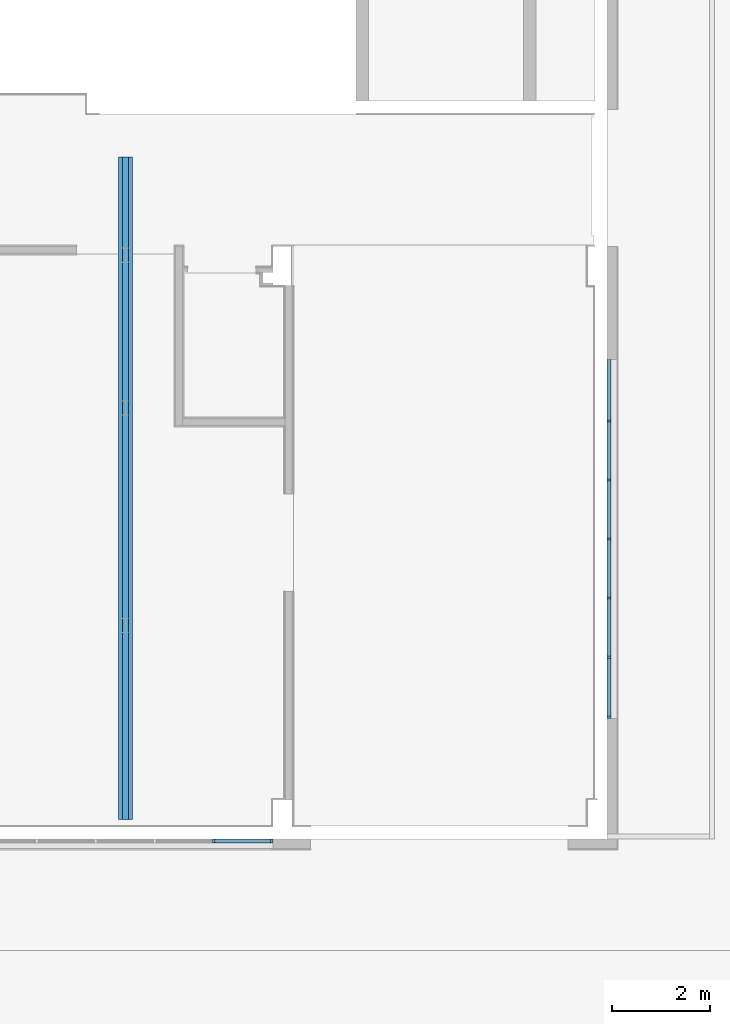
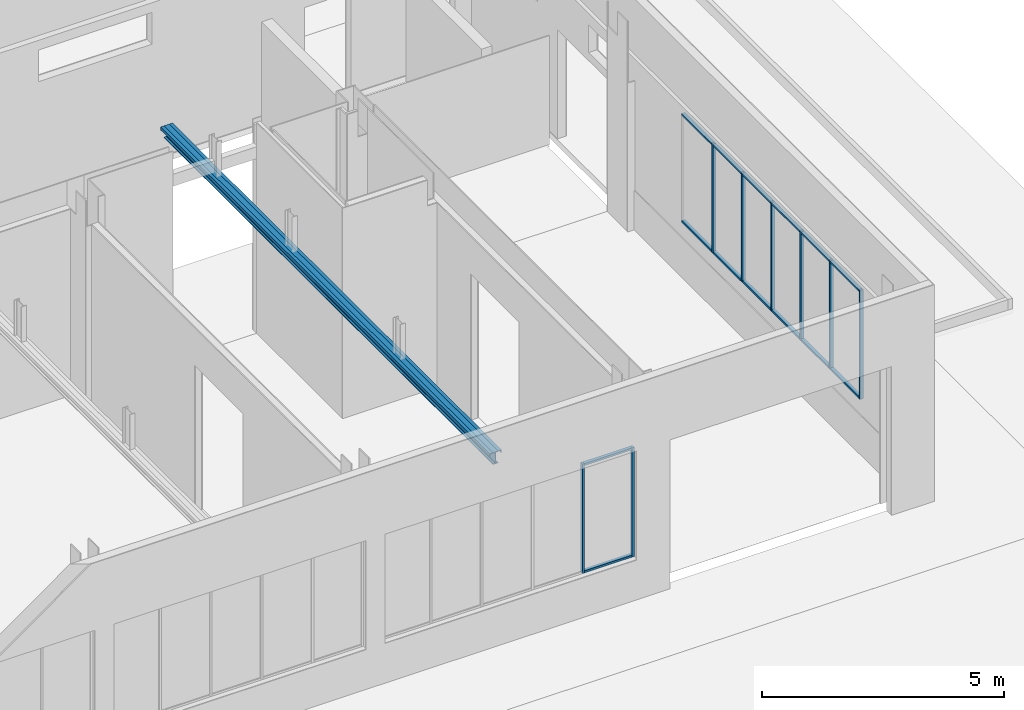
# One storey, part 5 of 27: 22 members, 3 beams, 2 elements without a shape of their own.
"""IFC2X3 building model written with IfcOpenShell, lengths in centimetres."""

from ifc_helpers import new_model, entity, si_unit, converted_unit, derived_unit, direction, frame, frame_2d, origin, origin_2d_with_axis, place, context, subcontext, project, spatial, polyline, circle_curve, parameter, trimmed, segment, composite_curve, rectangle, outline, extrude, source, transform, mapped, material, type_object, type_shapes, element, aggregate, save


model = new_model("IFC2X3")

# Units and contexts
model_context = context("Model", 3, precision=0.001, world=origin(), true_north=direction((6.12303176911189e-17, 1.0)))
body_context = subcontext(model_context, "Body", "Model", "MODEL_VIEW")
ifc_project = project(units=[si_unit("LENGTHUNIT", "METRE", prefix="CENTI"), si_unit("AREAUNIT", "SQUARE_METRE"), si_unit("VOLUMEUNIT", "CUBIC_METRE"), converted_unit("PLANEANGLEUNIT", "DEGREE", entity("IfcRatioMeasure", 0.0174532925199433), si_unit("PLANEANGLEUNIT", "RADIAN"), dimensions=[0, 0, 0, 0, 0, 0, 0]), si_unit("MASSUNIT", "GRAM", prefix="KILO"), derived_unit("MASSDENSITYUNIT", [(si_unit("MASSUNIT", "GRAM", prefix="KILO"), 1), (si_unit("LENGTHUNIT", "METRE"), -3)]), derived_unit("MOMENTOFINERTIAUNIT", [(si_unit("LENGTHUNIT", "METRE"), 4)]), si_unit("TIMEUNIT", "SECOND"), si_unit("FREQUENCYUNIT", "HERTZ"), si_unit("THERMODYNAMICTEMPERATUREUNIT", "DEGREE_CELSIUS"), derived_unit("THERMALTRANSMITTANCEUNIT", [(si_unit("MASSUNIT", "GRAM", prefix="KILO"), 1), (si_unit("THERMODYNAMICTEMPERATUREUNIT", "KELVIN"), -1), (si_unit("TIMEUNIT", "SECOND"), -3)]), derived_unit("VOLUMETRICFLOWRATEUNIT", [(si_unit("LENGTHUNIT", "METRE"), 3), (si_unit("TIMEUNIT", "SECOND"), -1)]), si_unit("ELECTRICCURRENTUNIT", "AMPERE"), si_unit("ELECTRICVOLTAGEUNIT", "VOLT"), si_unit("POWERUNIT", "WATT"), si_unit("FORCEUNIT", "NEWTON", prefix="KILO"), si_unit("ILLUMINANCEUNIT", "LUX"), si_unit("LUMINOUSFLUXUNIT", "LUMEN"), si_unit("LUMINOUSINTENSITYUNIT", "CANDELA"), derived_unit("USERDEFINED", [(si_unit("MASSUNIT", "GRAM", prefix="KILO"), -1), (si_unit("LENGTHUNIT", "METRE"), -2), (si_unit("TIMEUNIT", "SECOND"), 3), (si_unit("LUMINOUSFLUXUNIT", "LUMEN"), 1)]), derived_unit("LINEARVELOCITYUNIT", [(si_unit("LENGTHUNIT", "METRE"), 1), (si_unit("TIMEUNIT", "SECOND"), -1)]), si_unit("PRESSUREUNIT", "PASCAL"), derived_unit("USERDEFINED", [(si_unit("LENGTHUNIT", "METRE"), -2), (si_unit("MASSUNIT", "GRAM", prefix="KILO"), 1), (si_unit("TIMEUNIT", "SECOND"), -2)]), derived_unit("LINEARFORCEUNIT", [(si_unit("MASSUNIT", "GRAM", prefix="KILO"), 1), (si_unit("LENGTHUNIT", "METRE"), 1), (si_unit("TIMEUNIT", "SECOND"), -2), (si_unit("LENGTHUNIT", "METRE"), -1)]), derived_unit("PLANARFORCEUNIT", [(si_unit("MASSUNIT", "GRAM", prefix="KILO"), 1), (si_unit("LENGTHUNIT", "METRE"), 1), (si_unit("TIMEUNIT", "SECOND"), -2), (si_unit("LENGTHUNIT", "METRE"), -2)])], contexts=[model_context])

# Site, building, storey
site_placement = place(None, origin())
site = spatial("IfcSite", under=ifc_project, at=site_placement, Name="Default", CompositionType="ELEMENT")
building_placement = place(site_placement, origin())
building = spatial("IfcBuilding", under=site, at=building_placement, CompositionType="ELEMENT")
storey_placement = place(building_placement, origin())
storey = spatial("IfcBuildingStorey", under=building, at=storey_placement, Name="Poziom 0 A +/-0,00", CompositionType="ELEMENT", Elevation=3.38570427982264e-11)

# Curtain wall, members
curtain_wall_type = type_object("IfcCurtainWallType", PredefinedType="NOTDEFINED")
curtain_wall_1_placement = place(storey_placement, origin())
curtain_wall_1 = element("IfcCurtainWall", 1, at=curtain_wall_1_placement, inside=storey, type_object=curtain_wall_type)
ifc_material_1 = material(Name="Aluminium")
member_type_1 = type_object("IfcMemberType", Name="Prostokątny szpros:50 x 80mm", PredefinedType="MULLION", material=ifc_material_1)
shared_shape_1 = source(origin(), body_context, "Body", "SweptSolid", [
    extrude(rectangle(XDim=8.0, YDim=5.0, at=origin_2d_with_axis()), frame((-2.5, 0.0, -113.500173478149), z_axis=(0.0, 0.0, 1.0), x_axis=(0.0, -1.0, 0.0)), (0.0, 0.0, 1.0), 113.500173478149),
])
type_shapes(member_type_1, [shared_shape_1])
member_1_placement = place(curtain_wall_1_placement, frame((285.735007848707, 251.127499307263, 375.0), z_axis=(1.0, 0.0, 0.0), x_axis=(0.0, 0.0, 1.0)))
member_1 = element("IfcMember", 2, at=member_1_placement, type_object=member_type_1, Name="Prostokątny szpros:50 x 80mm", ObjectType="Prostokątny szpros:50 x 80mm", context=body_context, shape_type="MappedRepresentation", body=[
    mapped(shared_shape_1, transform((0.0, 0.0, 0.0), scale=1.0)),
])
member_type_2 = type_object("IfcMemberType", Name="Prostokątny szpros:50 x 80mm", PredefinedType="MULLION", material=ifc_material_1)
shared_shape_2 = source(origin(), body_context, "Body", "SweptSolid", [
    extrude(rectangle(XDim=8.0, YDim=5.0, at=origin_2d_with_axis()), frame((-2.5, 0.0, -113.500173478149), z_axis=(0.0, 0.0, 1.0), x_axis=(0.0, -1.0, 0.0)), (0.0, 0.0, 1.0), 113.500173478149),
])
type_shapes(member_type_2, [shared_shape_2])
member_2_placement = place(curtain_wall_1_placement, frame((172.237321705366, 251.127499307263, 100.0), z_axis=(-1.0, 0.0, 0.0), x_axis=(0.0, 0.0, -1.0)))
member_2 = element("IfcMember", 3, at=member_2_placement, type_object=member_type_2, Name="Prostokątny szpros:50 x 80mm", ObjectType="Prostokątny szpros:50 x 80mm", context=body_context, shape_type="MappedRepresentation", body=[
    mapped(shared_shape_2, transform((0.0, 0.0, 0.0), scale=1.0)),
])
member_type_3 = type_object("IfcMemberType", Name="Prostokątny szpros:50 x 80mm", PredefinedType="MULLION", material=ifc_material_1)
shared_shape_3 = source(origin(), body_context, "Body", "SweptSolid", [
    extrude(rectangle(XDim=8.0, YDim=5.0, at=origin_2d_with_axis()), frame((-2.5, 0.0, -275.0), z_axis=(0.0, 0.0, 1.0), x_axis=(0.0, -1.0, 0.0)), (0.0, 0.0, 1.0), 274.999999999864),
])
type_shapes(member_type_3, [shared_shape_3])
member_3_placement = place(curtain_wall_1_placement, frame((290.735007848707, 251.127499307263, 100.0), z_axis=(0.0, 0.0, -1.0), x_axis=(1.0, 0.0, 0.0)))
member_3 = element("IfcMember", 4, at=member_3_placement, type_object=member_type_3, Name="Prostokątny szpros:50 x 80mm", ObjectType="Prostokątny szpros:50 x 80mm", context=body_context, shape_type="MappedRepresentation", body=[
    mapped(shared_shape_3, transform((0.0, 0.0, 0.0), scale=1.0)),
])

curtain_wall_2_placement = place(storey_placement, origin())
curtain_wall_2 = element("IfcCurtainWall", 5, at=curtain_wall_2_placement, inside=storey, type_object=curtain_wall_type)
member_type_4 = type_object("IfcMemberType", Name="Prostokątny szpros:50 x 80mm", PredefinedType="MULLION", material=ifc_material_1)
shared_shape_4 = source(origin(), body_context, "Body", "SweptSolid", [
    extrude(rectangle(XDim=8.0, YDim=5.0, at=origin_2d_with_axis()), frame((-2.5, 0.0, -275.0), z_axis=(0.0, 0.0, 1.0), x_axis=(0.0, -1.0, 0.0)), (0.0, 0.0, 1.0), 274.999999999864),
])
type_shapes(member_type_4, [shared_shape_4])
member_4_placement = place(curtain_wall_2_placement, frame((979.734898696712, 502.126457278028, 375.0), z_axis=(0.0, 0.0, 1.0), x_axis=(0.0, -1.0, 0.0)))
member_4 = element("IfcMember", 6, at=member_4_placement, type_object=member_type_4, Name="Prostokątny szpros:50 x 80mm", ObjectType="Prostokątny szpros:50 x 80mm", context=body_context, shape_type="MappedRepresentation", body=[
    mapped(shared_shape_4, transform((0.0, 0.0, 0.0), scale=1.0)),
])
member_type_5 = type_object("IfcMemberType", Name="Prostokątny szpros:50 x 80mm", PredefinedType="MULLION", material=ifc_material_1)
shared_shape_5 = source(origin(), body_context, "Body", "SweptSolid", [
    extrude(rectangle(XDim=8.0, YDim=5.0, at=origin_2d_with_axis()), frame((-2.5, 0.0, -116.002333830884), z_axis=(0.0, 0.0, 1.0), x_axis=(0.0, -1.0, 0.0)), (0.0, 0.0, 1.0), 116.002333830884),
])
type_shapes(member_type_5, [shared_shape_5])
member_5_placement = place(curtain_wall_2_placement, frame((979.734898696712, 630.626457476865, 100.0), z_axis=(0.0, -1.0, 0.0), x_axis=(0.0, 0.0, -1.0)))
member_5 = element("IfcMember", 7, at=member_5_placement, type_object=member_type_5, Name="Prostokątny szpros:50 x 80mm", ObjectType="Prostokątny szpros:50 x 80mm", context=body_context, shape_type="MappedRepresentation", body=[
    mapped(shared_shape_5, transform((0.0, 0.0, 0.0), scale=1.0)),
])
member_6_placement = place(curtain_wall_2_placement, frame((979.734898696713, 751.627249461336, 100.0), z_axis=(0.0, -1.0, 0.0), x_axis=(0.0, 0.0, -1.0)))
member_6 = element("IfcMember", 8, at=member_6_placement, type_object=member_type_5, Name="Prostokątny szpros:50 x 80mm", ObjectType="Prostokątny szpros:50 x 80mm", context=body_context, shape_type="MappedRepresentation", body=[
    mapped(shared_shape_5, transform((0.0, 0.0, 0.0), scale=1.0)),
])
member_7_placement = place(curtain_wall_2_placement, frame((979.734898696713, 872.627249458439, 100.0), z_axis=(0.0, -1.0, 0.0), x_axis=(0.0, 0.0, -1.0)))
member_7 = element("IfcMember", 9, at=member_7_placement, type_object=member_type_5, Name="Prostokątny szpros:50 x 80mm", ObjectType="Prostokątny szpros:50 x 80mm", context=body_context, shape_type="MappedRepresentation", body=[
    mapped(shared_shape_5, transform((0.0, 0.0, 0.0), scale=1.0)),
])
member_8_placement = place(curtain_wall_2_placement, frame((979.734898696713, 993.627249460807, 100.0), z_axis=(0.0, -1.0, 0.0), x_axis=(0.0, 0.0, -1.0)))
member_8 = element("IfcMember", 10, at=member_8_placement, type_object=member_type_5, Name="Prostokątny szpros:50 x 80mm", ObjectType="Prostokątny szpros:50 x 80mm", context=body_context, shape_type="MappedRepresentation", body=[
    mapped(shared_shape_5, transform((0.0, 0.0, 0.0), scale=1.0)),
])

# Member
member_type_6 = type_object("IfcMemberType", Name="Prostokątny szpros:50 x 80mm", PredefinedType="MULLION", material=ifc_material_1)
shared_shape_6 = source(origin(), body_context, "Body", "SweptSolid", [
    extrude(rectangle(XDim=8.0, YDim=5.0, at=origin_2d_with_axis()), frame((0.0, 0.0, -275.0), z_axis=(0.0, 0.0, 1.0), x_axis=(0.0, -1.0, 0.0)), (0.0, 0.0, 1.0), 274.999999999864),
])
type_shapes(member_type_6, [shared_shape_6])
member_9_placement = place(curtain_wall_1_placement, frame((169.737321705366, 251.127499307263, 100.0), z_axis=(0.0, 0.0, -1.0), x_axis=(1.0, 0.0, 0.0)))
member_9 = element("IfcMember", 11, at=member_9_placement, type_object=member_type_6, Name="Prostokątny szpros:50 x 80mm", ObjectType="Prostokątny szpros:50 x 80mm", context=body_context, shape_type="MappedRepresentation", body=[
    mapped(shared_shape_6, transform((0.0, 0.0, 0.0), scale=1.0)),
])

aggregate(curtain_wall_1, [member_1, member_3, member_2, member_9])

member_10_placement = place(curtain_wall_2_placement, frame((979.734898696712, 628.126457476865, 100.0), z_axis=(0.0, 0.0, -1.0), x_axis=(0.0, 1.0, 0.0)))
member_10 = element("IfcMember", 12, at=member_10_placement, type_object=member_type_6, Name="Prostokątny szpros:50 x 80mm", ObjectType="Prostokątny szpros:50 x 80mm", context=body_context, shape_type="MappedRepresentation", body=[
    mapped(shared_shape_6, transform((0.0, 0.0, 0.0), scale=1.0)),
])

member_11_placement = place(curtain_wall_2_placement, frame((979.734898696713, 749.127249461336, 100.0), z_axis=(0.0, 0.0, -1.0), x_axis=(0.0, 1.0, 0.0)))
member_11 = element("IfcMember", 13, at=member_11_placement, type_object=member_type_6, Name="Prostokątny szpros:50 x 80mm", ObjectType="Prostokątny szpros:50 x 80mm", context=body_context, shape_type="MappedRepresentation", body=[
    mapped(shared_shape_6, transform((0.0, 0.0, 0.0), scale=1.0)),
])

member_12_placement = place(curtain_wall_2_placement, frame((979.734898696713, 870.127249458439, 100.0), z_axis=(0.0, 0.0, -1.0), x_axis=(0.0, 1.0, 0.0)))
member_12 = element("IfcMember", 14, at=member_12_placement, type_object=member_type_6, Name="Prostokątny szpros:50 x 80mm", ObjectType="Prostokątny szpros:50 x 80mm", context=body_context, shape_type="MappedRepresentation", body=[
    mapped(shared_shape_6, transform((0.0, 0.0, 0.0), scale=1.0)),
])

member_13_placement = place(curtain_wall_2_placement, frame((979.734898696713, 991.127249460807, 100.0), z_axis=(0.0, 0.0, -1.0), x_axis=(0.0, 1.0, 0.0)))
member_13 = element("IfcMember", 15, at=member_13_placement, type_object=member_type_6, Name="Prostokątny szpros:50 x 80mm", ObjectType="Prostokątny szpros:50 x 80mm", context=body_context, shape_type="MappedRepresentation", body=[
    mapped(shared_shape_6, transform((0.0, 0.0, 0.0), scale=1.0)),
])

member_14_placement = place(curtain_wall_2_placement, frame((979.734898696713, 1112.12724946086, 100.0), z_axis=(0.0, 0.0, -1.0), x_axis=(0.0, 1.0, 0.0)))
member_14 = element("IfcMember", 16, at=member_14_placement, type_object=member_type_6, Name="Prostokątny szpros:50 x 80mm", ObjectType="Prostokątny szpros:50 x 80mm", context=body_context, shape_type="MappedRepresentation", body=[
    mapped(shared_shape_6, transform((0.0, 0.0, 0.0), scale=1.0)),
])

member_type_7 = type_object("IfcMemberType", Name="Prostokątny szpros:50 x 80mm", PredefinedType="MULLION", material=ifc_material_1)
shared_shape_7 = source(origin(), body_context, "Body", "SweptSolid", [
    extrude(rectangle(XDim=8.0, YDim=5.0, at=origin_2d_with_axis()), frame((-2.5, 0.0, -116.002333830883), z_axis=(0.0, 0.0, 1.0), x_axis=(0.0, -1.0, 0.0)), (0.0, 0.0, 1.0), 116.002333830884),
])
type_shapes(member_type_7, [shared_shape_7])
member_15_placement = place(curtain_wall_2_placement, frame((979.734898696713, 746.627249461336, 375.0), z_axis=(0.0, 1.0, 0.0), x_axis=(0.0, 0.0, 1.0)))
member_15 = element("IfcMember", 17, at=member_15_placement, type_object=member_type_7, Name="Prostokątny szpros:50 x 80mm", ObjectType="Prostokątny szpros:50 x 80mm", context=body_context, shape_type="MappedRepresentation", body=[
    mapped(shared_shape_7, transform((0.0, 0.0, 0.0), scale=1.0)),
])

member_16_placement = place(curtain_wall_2_placement, frame((979.734898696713, 867.627249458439, 375.0), z_axis=(0.0, 1.0, 0.0), x_axis=(0.0, 0.0, 1.0)))
member_16 = element("IfcMember", 18, at=member_16_placement, type_object=member_type_7, Name="Prostokątny szpros:50 x 80mm", ObjectType="Prostokątny szpros:50 x 80mm", context=body_context, shape_type="MappedRepresentation", body=[
    mapped(shared_shape_7, transform((0.0, 0.0, 0.0), scale=1.0)),
])

member_17_placement = place(curtain_wall_2_placement, frame((979.734898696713, 988.627249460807, 375.0), z_axis=(0.0, 1.0, 0.0), x_axis=(0.0, 0.0, 1.0)))
member_17 = element("IfcMember", 19, at=member_17_placement, type_object=member_type_7, Name="Prostokątny szpros:50 x 80mm", ObjectType="Prostokątny szpros:50 x 80mm", context=body_context, shape_type="MappedRepresentation", body=[
    mapped(shared_shape_7, transform((0.0, 0.0, 0.0), scale=1.0)),
])

member_18_placement = place(curtain_wall_2_placement, frame((979.734898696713, 1109.62724946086, 375.0), z_axis=(0.0, 1.0, 0.0), x_axis=(0.0, 0.0, 1.0)))
member_18 = element("IfcMember", 20, at=member_18_placement, type_object=member_type_7, Name="Prostokątny szpros:50 x 80mm", ObjectType="Prostokątny szpros:50 x 80mm", context=body_context, shape_type="MappedRepresentation", body=[
    mapped(shared_shape_7, transform((0.0, 0.0, 0.0), scale=1.0)),
])

member_type_8 = type_object("IfcMemberType", Name="Prostokątny szpros:50 x 80mm", PredefinedType="MULLION", material=ifc_material_1)
shared_shape_8 = source(origin(), body_context, "Body", "SweptSolid", [
    extrude(rectangle(XDim=8.0, YDim=5.0, at=origin_2d_with_axis()), frame((-2.5, 0.0, -118.4999790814), z_axis=(0.0, 0.0, 1.0), x_axis=(0.0, -1.0, 0.0)), (0.0, 0.0, 1.0), 118.499979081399),
])
type_shapes(member_type_8, [shared_shape_8])
member_19_placement = place(curtain_wall_2_placement, frame((979.734898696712, 625.626457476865, 375.0), z_axis=(0.0, 1.0, 0.0), x_axis=(0.0, 0.0, 1.0)))
member_19 = element("IfcMember", 21, at=member_19_placement, type_object=member_type_8, Name="Prostokątny szpros:50 x 80mm", ObjectType="Prostokątny szpros:50 x 80mm", context=body_context, shape_type="MappedRepresentation", body=[
    mapped(shared_shape_8, transform((0.0, 0.0, 0.0), scale=1.0)),
])

member_type_9 = type_object("IfcMemberType", Name="Prostokątny szpros:50 x 80mm", PredefinedType="MULLION", material=ifc_material_1)
shared_shape_9 = source(origin(), body_context, "Body", "SweptSolid", [
    extrude(rectangle(XDim=8.0, YDim=5.0, at=origin_2d_with_axis()), frame((-2.5, 0.0, -118.4999790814), z_axis=(0.0, 0.0, 1.0), x_axis=(0.0, -1.0, 0.0)), (0.0, 0.0, 1.0), 118.499979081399),
])
type_shapes(member_type_9, [shared_shape_9])
member_20_placement = place(curtain_wall_2_placement, frame((979.734898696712, 507.126457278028, 100.0), z_axis=(0.0, -1.0, 0.0), x_axis=(0.0, 0.0, -1.0)))
member_20 = element("IfcMember", 22, at=member_20_placement, type_object=member_type_9, Name="Prostokątny szpros:50 x 80mm", ObjectType="Prostokątny szpros:50 x 80mm", context=body_context, shape_type="MappedRepresentation", body=[
    mapped(shared_shape_9, transform((0.0, 0.0, 0.0), scale=1.0)),
])

member_type_10 = type_object("IfcMemberType", Name="Prostokątny szpros:50 x 80mm", PredefinedType="MULLION", material=ifc_material_1)
shared_shape_10 = source(origin(), body_context, "Body", "SweptSolid", [
    extrude(rectangle(XDim=8.0, YDim=5.0, at=origin_2d_with_axis()), frame((-2.5, 0.0, -123.499213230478), z_axis=(0.0, 0.0, 1.0), x_axis=(0.0, -1.0, 0.0)), (0.0, 0.0, 1.0), 123.499213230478),
])
type_shapes(member_type_10, [shared_shape_10])
member_21_placement = place(curtain_wall_2_placement, frame((979.734898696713, 1238.12646269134, 375.0), z_axis=(0.0, 1.0, 0.0), x_axis=(0.0, 0.0, 1.0)))
member_21 = element("IfcMember", 23, at=member_21_placement, type_object=member_type_10, Name="Prostokątny szpros:50 x 80mm", ObjectType="Prostokątny szpros:50 x 80mm", context=body_context, shape_type="MappedRepresentation", body=[
    mapped(shared_shape_10, transform((0.0, 0.0, 0.0), scale=1.0)),
])

member_type_11 = type_object("IfcMemberType", Name="Prostokątny szpros:50 x 80mm", PredefinedType="MULLION", material=ifc_material_1)
shared_shape_11 = source(origin(), body_context, "Body", "SweptSolid", [
    extrude(rectangle(XDim=8.0, YDim=5.0, at=origin_2d_with_axis()), frame((-2.5, 0.0, -123.499213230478), z_axis=(0.0, 0.0, 1.0), x_axis=(0.0, -1.0, 0.0)), (0.0, 0.0, 1.0), 123.499213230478),
])
type_shapes(member_type_11, [shared_shape_11])
member_22_placement = place(curtain_wall_2_placement, frame((979.734898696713, 1114.62724946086, 100.0), z_axis=(0.0, -1.0, 0.0), x_axis=(0.0, 0.0, -1.0)))
member_22 = element("IfcMember", 24, at=member_22_placement, type_object=member_type_11, Name="Prostokątny szpros:50 x 80mm", ObjectType="Prostokątny szpros:50 x 80mm", context=body_context, shape_type="MappedRepresentation", body=[
    mapped(shared_shape_11, transform((0.0, 0.0, 0.0), scale=1.0)),
])

aggregate(curtain_wall_2, [member_21, member_20, member_4, member_19, member_5, member_10, member_15, member_6, member_11, member_16, member_7, member_12, member_17, member_8, member_13, member_18, member_22, member_14])

# Beams
ifc_material_2 = material(Name="Stal konstrukcyjna - S235")
beam_type_1 = type_object("IfcBeamType", Name="IN:IN300", PredefinedType="NOTDEFINED")
beam_1_placement = place(storey_placement, frame((-11.7650813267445, 295.12765760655, 440.0), z_axis=(0.0, 0.0, 1.0), x_axis=(0.0, 1.0, 0.0)))
element("IfcBeam", 25, at=beam_1_placement, inside=storey, type_object=beam_type_1, material=ifc_material_2, Name="IN:IN300", ObjectType="IN:IN300", context=body_context, shape_type="SweptSolid", body=[
    extrude(outline(composite_curve([segment(polyline([(14.3828568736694, -6.24999999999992), (15.0, -6.24999999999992)]), True, "CONTINUOUS"), segment(polyline([(15.0, -6.24999999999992), (15.0, 6.25)]), True, "CONTINUOUS"), segment(polyline([(15.0, 6.25), (14.3828568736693, 6.25)]), True, "CONTINUOUS"), segment(trimmed(circle_curve(frame_2d((14.3828568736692, 5.60000000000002), x_axis=(0.0, 1.0)), 0.649999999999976), [parameter(0.0)], [parameter(82.0300000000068)], True, "PARAMETER"), True, "CONTINUOUS"), segment(polyline([(13.7391353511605, 5.69012547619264), (13.1483239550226, 1.47025305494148)]), True, "CONTINUOUS"), segment(trimmed(circle_curve(frame_2d((12.0787558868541, 1.62000000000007), x_axis=(0.990340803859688, -0.138654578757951)), 1.08000000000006), [parameter(277.970000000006)], [parameter(0.0)], True, "PARAMETER"), False, "CONTINUOUS"), segment(polyline([(12.0787558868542, 0.540000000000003), (-12.078755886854, 0.539999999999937)]), True, "CONTINUOUS"), segment(trimmed(circle_curve(frame_2d((-12.078755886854, 1.61999999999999), x_axis=(0.0, -1.0)), 1.08000000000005), [parameter(277.970000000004)], [parameter(0.0)], True, "PARAMETER"), False, "CONTINUOUS"), segment(polyline([(-13.1483239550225, 1.4702530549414), (-13.7391353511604, 5.69012547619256)]), True, "CONTINUOUS"), segment(trimmed(circle_curve(frame_2d((-14.3828568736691, 5.59999999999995), x_axis=(0.9903408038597, 0.138654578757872)), 0.649999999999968), [parameter(0.0)], [parameter(82.0300000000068)], True, "PARAMETER"), True, "CONTINUOUS"), segment(polyline([(-14.3828568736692, 6.24999999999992), (-15.0, 6.24999999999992)]), True, "CONTINUOUS"), segment(polyline([(-15.0, 6.24999999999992), (-15.0, -6.25)]), True, "CONTINUOUS"), segment(polyline([(-15.0, -6.25), (-14.3828568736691, -6.25)]), True, "CONTINUOUS"), segment(trimmed(circle_curve(frame_2d((-14.3828568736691, -5.60000000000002), x_axis=(0.0, -1.0)), 0.649999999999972), [parameter(0.0)], [parameter(82.0300000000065)], True, "PARAMETER"), True, "CONTINUOUS"), segment(polyline([(-13.7391353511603, -5.69012547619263), (-13.1483239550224, -1.47025305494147)]), True, "CONTINUOUS"), segment(trimmed(circle_curve(frame_2d((-12.0787558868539, -1.62000000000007), x_axis=(-0.990340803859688, 0.138654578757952)), 1.08000000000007), [parameter(277.970000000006)], [parameter(0.0)], True, "PARAMETER"), False, "CONTINUOUS"), segment(polyline([(-12.078755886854, -0.540000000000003), (12.0787558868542, -0.539999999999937)]), True, "CONTINUOUS"), segment(trimmed(circle_curve(frame_2d((12.0787558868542, -1.61999999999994), x_axis=(0.0, 1.0)), 1.08000000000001), [parameter(277.969999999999)], [parameter(0.0)], True, "PARAMETER"), False, "CONTINUOUS"), segment(polyline([(13.1483239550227, -1.4702530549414), (13.7391353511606, -5.69012547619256)]), True, "CONTINUOUS"), segment(trimmed(circle_curve(frame_2d((14.3828568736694, -5.59999999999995), x_axis=(-0.9903408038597, -0.138654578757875)), 0.649999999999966), [parameter(0.0)], [parameter(82.0300000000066)], True, "PARAMETER"), True, "CONTINUOUS")], self_intersect=False)), frame((0.0, 0.0, -15.0), z_axis=(1.0, 0.0, 0.0), x_axis=(0.0, 0.0, -1.0)), (0.0, 0.0, 1.0), 1358.0),
])
beam_type_2 = type_object("IfcBeamType", Name="Równoramienne L:L80x8", PredefinedType="NOTDEFINED")
beam_2_placement = place(storey_placement, frame((-18.0150813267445, 278.62765760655, 437.74), z_axis=(0.0, 0.0, 1.0), x_axis=(0.0, 1.0, 0.0)))
element("IfcBeam", 26, at=beam_2_placement, inside=storey, type_object=beam_type_2, material=ifc_material_2, Name="Równoramienne L:L80x8", ObjectType="Równoramienne L:L80x8", context=body_context, shape_type="SweptSolid", body=[
    extrude(outline(composite_curve([segment(polyline([(-3.02222222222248, -4.97777777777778), (-2.72222222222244, -4.97777777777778)]), True, "CONTINUOUS"), segment(trimmed(circle_curve(frame_2d((-2.72222222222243, -4.47777777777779), x_axis=(0.0, -1.0)), 0.499999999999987), [parameter(0.0)], [parameter(90.0000000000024)], True, "PARAMETER"), True, "CONTINUOUS"), segment(polyline([(-2.22222222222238, -4.47777777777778), (-2.22222222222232, 1.22222222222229)]), True, "CONTINUOUS"), segment(trimmed(circle_curve(frame_2d((-1.22222222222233, 1.22222222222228), x_axis=(-1.0, 0.0)), 0.999999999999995), [parameter(270.0)], [parameter(0.0)], True, "PARAMETER"), False, "CONTINUOUS"), segment(polyline([(-1.22222222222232, 2.22222222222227), (4.47777777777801, 2.22222222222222)]), True, "CONTINUOUS"), segment(trimmed(circle_curve(frame_2d((4.47777777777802, 2.72222222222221), x_axis=(0.0, -1.0)), 0.499999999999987), [parameter(0.0)], [parameter(90.0000000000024)], True, "PARAMETER"), True, "CONTINUOUS"), segment(polyline([(4.97777777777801, 2.72222222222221), (4.97777777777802, 3.02222222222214)]), True, "CONTINUOUS"), segment(polyline([(4.97777777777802, 3.02222222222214), (-3.02222222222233, 3.02222222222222)]), True, "CONTINUOUS"), segment(polyline([(-3.02222222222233, 3.02222222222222), (-3.02222222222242, -4.97777777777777)]), True, "CONTINUOUS")], self_intersect=False)), frame((16.4997944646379, 4.9777777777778, -0.762222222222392), z_axis=(1.0, 0.0, 0.0), x_axis=(0.0, 0.0, -1.0)), (0.0, 0.0, 1.0), 1357.99999987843),
])
beam_3_placement = place(storey_placement, frame((0.224918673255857, 295.12765760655, 432.0), z_axis=(0.0, 0.0, 1.0), x_axis=(0.0, 1.0, 0.0)))
element("IfcBeam", 27, at=beam_3_placement, inside=storey, type_object=beam_type_2, material=ifc_material_2, Name="Równoramienne L:L80x8", ObjectType="Równoramienne L:L80x8", context=body_context, shape_type="SweptSolid", body=[
    extrude(outline(composite_curve([segment(polyline([(-3.02222222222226, -3.02222222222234), (4.97777777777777, -3.02222222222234)]), True, "CONTINUOUS"), segment(polyline([(4.97777777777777, -3.02222222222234), (4.97777777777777, -2.72222222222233)]), True, "CONTINUOUS"), segment(trimmed(circle_curve(frame_2d((4.47777777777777, -2.72222222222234), x_axis=(1.0, 0.0)), 0.500000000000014), [parameter(0.0)], [parameter(89.999999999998)], True, "PARAMETER"), True, "CONTINUOUS"), segment(polyline([(4.47777777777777, -2.22222222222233), (-1.22222222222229, -2.22222222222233)]), True, "CONTINUOUS"), segment(trimmed(circle_curve(frame_2d((-1.22222222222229, -1.22222222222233), x_axis=(0.0, -1.0)), 0.999999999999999), [parameter(270.0)], [parameter(0.0)], True, "PARAMETER"), False, "CONTINUOUS"), segment(polyline([(-2.22222222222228, -1.22222222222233), (-2.22222222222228, 4.47777777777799)]), True, "CONTINUOUS"), segment(trimmed(circle_curve(frame_2d((-2.72222222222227, 4.47777777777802), x_axis=(1.0, 0.0)), 0.499999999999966), [parameter(0.0)], [parameter(90.000000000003)], True, "PARAMETER"), True, "CONTINUOUS"), segment(polyline([(-2.72222222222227, 4.97777777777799), (-3.0222222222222, 4.97777777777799)]), True, "CONTINUOUS"), segment(polyline([(-3.0222222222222, 4.977777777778), (-3.0222222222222, -3.02222222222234)]), True, "CONTINUOUS")], self_intersect=False)), frame((-0.000205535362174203, 0.762222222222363, 4.97777777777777), z_axis=(1.0, 0.0, 0.0), x_axis=(0.0, 0.0, -1.0)), (0.0, 0.0, 1.0), 1357.99999987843),
])

save(model, "model.ifc")
